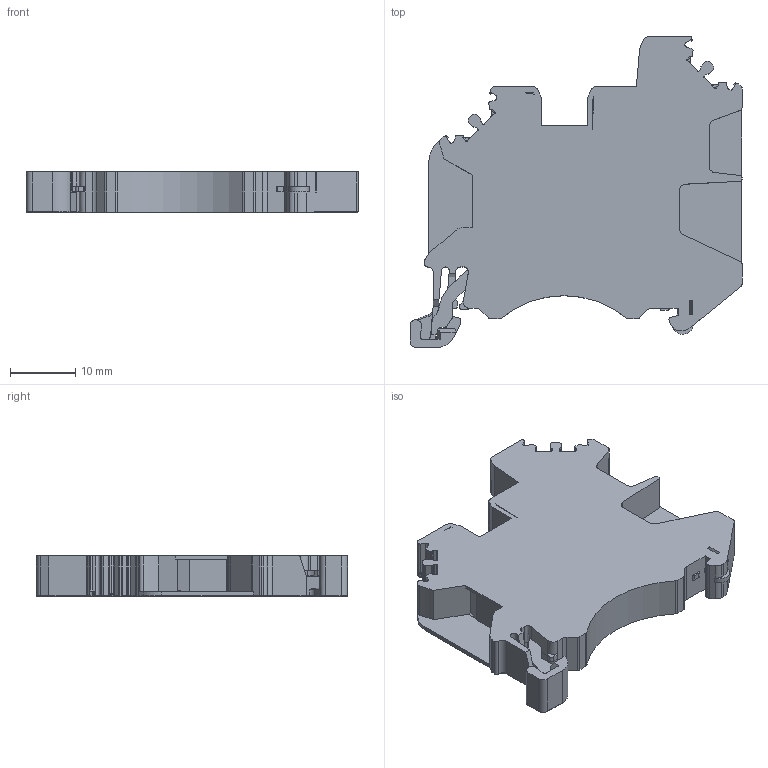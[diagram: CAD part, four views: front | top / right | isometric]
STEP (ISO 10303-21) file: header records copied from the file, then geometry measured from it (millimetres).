
FILE_DESCRIPTION(/* description */ ('Unknown'),/* implementation_level */ '2;1');
FILE_NAME(/* name */ 'DC4-TW-PE-01P-1C-00A(H)-C',/* time_stamp */ '2022-03-07T08:49:25+08:00',/* author */ ('Unknown'),/* organization */ ('Unknown'),/* preprocessor_version */ 'ST-DEVELOPER v16.7',/* originating_system */ 'Solid Edge',/* authorisation */ 'Unknown');
FILE_SCHEMA (('AUTOMOTIVE_DESIGN {1 0 10303 214 3 1 1}'));
Length unit declared in the file: millimetre
Products named in the file (1): DC4-TW-PE-01P-1C-00A(H)-b
Bounding box: 50.9 x 47.7 x 6.2 mm (x, y, z)
Volume: 8508.2 mm3; surface area: 5143 mm2
Topology: 1 solids, 1 shells, 606 faces, 1599 edges, 995 vertices
Faces by surface type: cylinder 261, plane 250, torus 82, bspline 9, cone 3, sphere 1
Entity records: 22994 total; most frequent: CARTESIAN_POINT 3499, DIRECTION 3314, ORIENTED_EDGE 3166, EDGE_CURVE 1583, AXIS2_PLACEMENT_3D 1182, VERTEX_POINT 991, LINE 950, VECTOR 950
